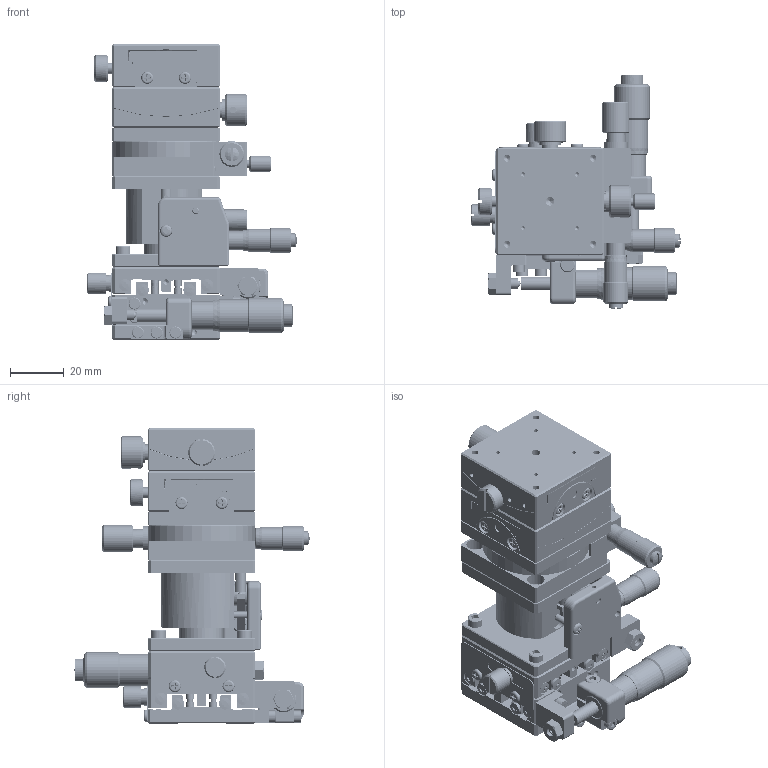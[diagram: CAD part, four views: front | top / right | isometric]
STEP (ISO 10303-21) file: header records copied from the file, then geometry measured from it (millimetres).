
FILE_DESCRIPTION((''),'2;1');
FILE_NAME('T:\Public\7_3次元データ\1図面ﾃﾞｰﾀ\2_OpticalHard\01_国内製品\1_Stags\TSD\40\TSD-40ES\TSD-40ES.stp','2009-02-04T14:24:54',('okegawa'),(''),'Autodesk Inventor 2008','Autodesk Inventor 2008','');
FILE_SCHEMA(('AUTOMOTIVE_DESIGN { 1 0 10303 214 1 1 1 1 }'));
Length unit declared in the file: millimetre
Products named in the file (8): TSD-40ES-C1-S33; TSD-40ES-C1-S23; TSD-40ES-C1-S25; TSD-40ES-C1-S30; TSD-40ES-C1-S31; TSD-40ES-C1-S32; TSD-40ES-C1-S29; TSD-40ES-C1-S18
Assembly tree (7 placements, depth 2):
  TSD-40ES-C1-S33
    TSD-40ES-C1-S23
    TSD-40ES-C1-S25
    TSD-40ES-C1-S30
    TSD-40ES-C1-S31
    TSD-40ES-C1-S32
    TSD-40ES-C1-S29
    TSD-40ES-C1-S18
Bounding box: 78.09 x 87.57 x 110 mm (x, y, z)
Volume: 161982 mm3; surface area: 94513.3 mm2
Topology: 7 solids, 158 shells, 3403 faces, 7984 edges, 5193 vertices
Faces by surface type: plane 1708, cylinder 712, bspline 567, cone 327, sphere 51, torus 38
Full cylindrical faces by diameter (mm): 1 x1, 1.2 x2, 1.5 x1, 1.567 x2, 1.6 x4, 1.7 x1, 1.8 x16, 2 x39, 2.2 x2, 2.3 x1, 2.4 x6, 2.5 x4, 2.6 x25, 3 x46, 3.1 x4, 3.242 x2, 3.3 x2, 3.5 x10, 3.6 x4, 3.8 x8, 4 x7, 4.3 x2, 4.5 x48, 4.6 x2, 5 x10, 5.1 x1, 5.2 x2, 5.5 x11, 5.8 x2, 6 x11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
Entity records: 100688 total; most frequent: CARTESIAN_POINT 30263, DIRECTION 14261, ORIENTED_EDGE 12930, EDGE_CURVE 6465, AXIS2_PLACEMENT_3D 5560, EDGE_LOOP 5056, VERTEX_POINT 4724, FACE_OUTER_BOUND 3403
